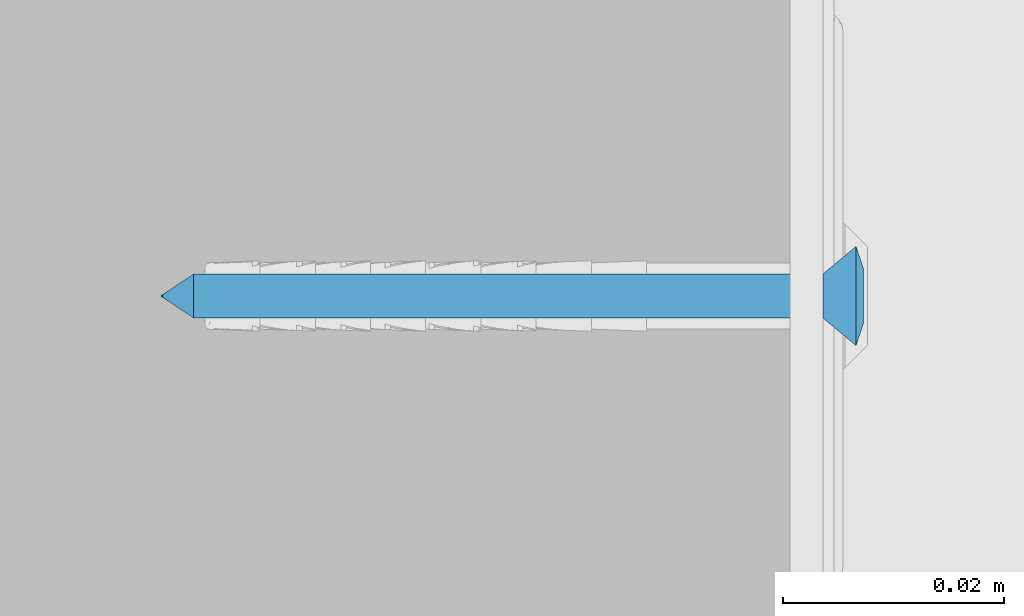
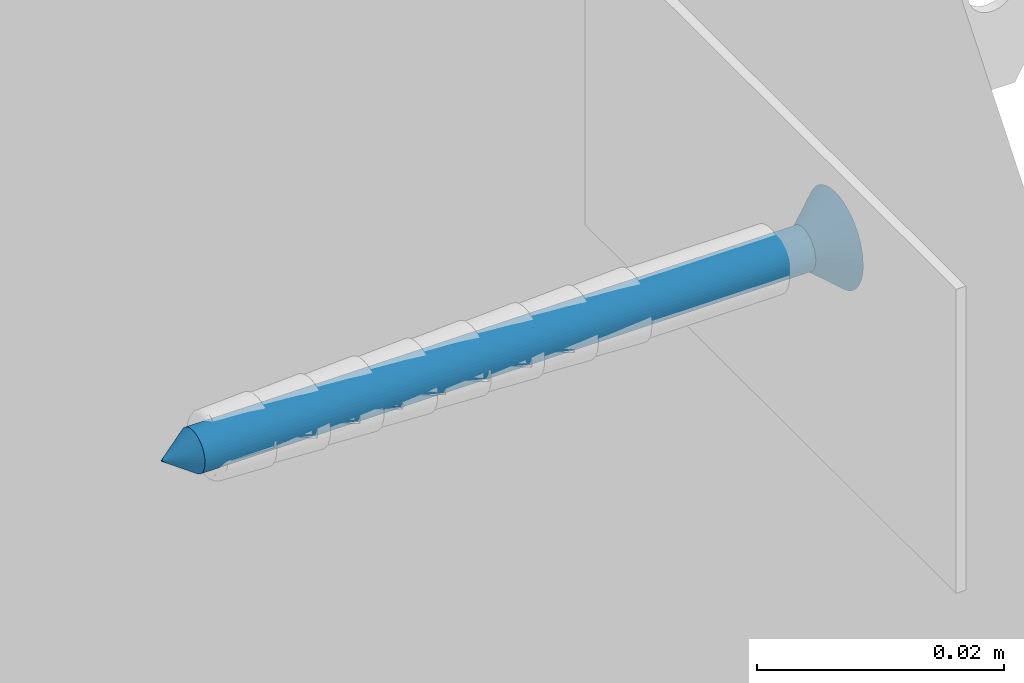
# One storey, part 42 of 61: 1 wall.
"""IFC2X3 building model written with IfcOpenShell, lengths in millimetres."""

from ifc_helpers import new_model, si_unit, frame, origin_with_axes, place, context, subcontext, project, spatial, faceted_brep, material, type_object, element, save


model = new_model("IFC2X3")

# Units and contexts
model_context = context("Model", 3, world=origin_with_axes())
body_context = subcontext(model_context, "Body", "Model", "MODEL_VIEW")
ifc_project = project(units=[si_unit("LENGTHUNIT", "METRE", prefix="MILLI"), si_unit("AREAUNIT", "SQUARE_METRE"), si_unit("VOLUMEUNIT", "CUBIC_METRE")], contexts=[model_context])

# Site, building, storey
site_placement = place(None, frame((2152.1410261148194, -2015.0250894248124, 57.61556563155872), z_axis=(0.0, 0.0, 1.0), x_axis=(-1.1102230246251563e-16, 1.0, 0.0)))
site = spatial("IfcSite", under=ifc_project, at=site_placement, Name="Default Site", CompositionType="ELEMENT")
building_placement = place(site_placement, origin_with_axes())
building = spatial("IfcBuilding", under=site, at=building_placement, Name="Default Building", CompositionType="ELEMENT")
storey_placement = place(building_placement, origin_with_axes())
storey = spatial("IfcBuildingStorey", under=building, at=storey_placement, Name="Default Building Storey", CompositionType="ELEMENT", Elevation=57.61556563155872)

# Wall
ifc_material = material(Name="Default")
wall_type = type_object("IfcWallType", Name="Kołek rozporowy min. fi 6#13", PredefinedType="NOTDEFINED")
wall_placement = place(storey_placement, frame((6291.176283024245, 2016.3286110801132, 3824.5989051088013), z_axis=(-6.858158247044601e-13, -1.0, 7.64238051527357e-14), x_axis=(-1.6476028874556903e-11, 7.642380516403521e-14, 1.0)))
element("IfcWall", 1, at=wall_placement, inside=storey, type_object=wall_type, material=ifc_material, Name="Kołek rozporowy min. fi 6", context=body_context, shape_type="Brep", body=[
    faceted_brep([(-1438.3141994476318, 3453.2833099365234, -0.46425670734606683), (-1435.8141422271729, 3453.2833099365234, -3.464256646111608), (-1435.7895851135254, 3452.970266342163, -3.464256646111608), (-1438.2587671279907, 3452.579259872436, -0.46425670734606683), (-1435.7162714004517, 3452.6650905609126, -3.464256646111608), (-1438.093900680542, 3451.892614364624, -0.46425670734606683), (-1435.5961084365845, 3452.3751735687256, -3.464256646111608), (-1437.8236532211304, 3451.240301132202, -0.46425670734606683), (-1435.4321956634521, 3452.107667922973, -3.464256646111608), (-1437.4547004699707, 3450.6382942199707, -0.46425670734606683), (-1435.22834777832, 3451.8690109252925, -3.464256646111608), (-1436.9961023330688, 3450.101137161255, -0.46425670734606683), (-1434.9896907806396, 3451.665163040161, -3.464256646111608), (-1436.4591836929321, 3449.642658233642, -0.46425670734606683), (-1434.7221851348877, 3451.501131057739, -3.464256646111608), (-1435.8570575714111, 3449.2735862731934, -0.46425670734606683), (-1434.4321489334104, 3451.381206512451, -3.464256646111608), (-1435.2047443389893, 3449.0034580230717, -0.46425670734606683), (-1434.1269731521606, 3451.307773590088, -3.464256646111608), (-1434.5180988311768, 3448.838710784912, -0.46425670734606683), (-1433.8141679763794, 3451.28321647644, -3.464256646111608), (-1433.8141679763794, 3448.7831592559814, -0.46425670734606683), (-1433.5012435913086, 3451.307773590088, -3.464256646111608), (-1433.110237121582, 3448.838710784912, -0.46425670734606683), (-1433.1960678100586, 3451.381206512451, -3.464256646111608), (-1432.4235916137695, 3449.0034580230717, -0.46425670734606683), (-1432.9061508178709, 3451.501131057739, -3.464256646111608), (-1431.771159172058, 3449.2735862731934, -0.46425670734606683), (-1432.6385259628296, 3451.665163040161, -3.464256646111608), (-1431.1691522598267, 3449.642658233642, -0.46425670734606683), (-1432.3999881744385, 3451.8690109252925, -3.464256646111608), (-1430.6321144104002, 3450.101137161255, -0.46425670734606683), (-1432.1961402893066, 3452.107667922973, -3.464256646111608), (-1430.1735162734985, 3450.6382942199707, -0.46425670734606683), (-1432.0321083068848, 3452.3751735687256, -3.464256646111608), (-1429.8045635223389, 3451.240301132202, -0.46425670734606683), (-1431.9120645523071, 3452.6650905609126, -3.464256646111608), (-1429.5344352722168, 3451.892614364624, -0.46425670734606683), (-1431.8387508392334, 3453.5961151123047, -3.464256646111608), (-1429.369568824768, 3453.9871215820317, -0.46425670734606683), (-1429.314136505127, 3453.2833099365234, -0.46425670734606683), (-1431.814193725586, 3453.2833099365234, -3.464256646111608), (-1429.369568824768, 3452.579259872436, -0.46425670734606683), (-1431.8387508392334, 3452.970266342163, -3.464256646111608), (-1431.9120645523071, 3453.9012908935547, -3.464256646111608), (-1429.5344352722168, 3454.6737670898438, -0.46425670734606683), (-1432.0321083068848, 3454.191207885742, -3.464256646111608), (-1429.8045635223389, 3455.3260803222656, -0.46425670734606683), (-1432.1961402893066, 3454.458713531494, -3.464256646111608), (-1430.1735162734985, 3455.9283256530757, -0.46425670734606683), (-1432.3999881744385, 3454.6973705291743, -3.464256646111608), (-1430.6321144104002, 3456.465244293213, -0.46425670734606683), (-1432.6385259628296, 3454.9012184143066, -3.464256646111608), (-1431.1691522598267, 3456.923723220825, -0.46425670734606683), (-1432.9061508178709, 3455.065250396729, -3.464256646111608), (-1431.771159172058, 3457.2927951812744, -0.46425670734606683), (-1433.1960678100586, 3455.1854133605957, -3.464256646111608), (-1432.4235916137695, 3457.562923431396, -0.46425670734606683), (-1433.5012435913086, 3455.25860786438, -3.464256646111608), (-1433.110237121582, 3457.7279090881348, -0.46425670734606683), (-1433.8141679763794, 3455.283164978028, -3.464256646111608), (-1433.8141679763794, 3457.7832221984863, -0.46425670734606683), (-1434.3430995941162, 3457.7519893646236, -0.46425670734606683), (-1434.1269731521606, 3455.25860786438, -3.464256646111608), (-1434.4321489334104, 3455.1854133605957, -3.464256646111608), (-1434.8646402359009, 3457.6590061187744, -0.46425670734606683), (-1435.3716373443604, 3457.504987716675, -0.46425670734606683), (-1434.7221851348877, 3455.065250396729, -3.464256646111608), (-1435.8570575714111, 3457.2927951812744, -0.46425670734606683), (-1434.9896907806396, 3454.9012184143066, -3.464256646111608), (-1435.22834777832, 3454.6973705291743, -3.464256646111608), (-1436.3142251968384, 3457.024812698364, -0.46425670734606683), (-1436.7367029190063, 3456.705093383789, -0.46425670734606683), (-1437.118649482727, 3456.337928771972, -0.46425670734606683), (-1437.4547004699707, 3455.9283256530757, -0.46425670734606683), (-1435.4321956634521, 3454.458713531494, -3.464256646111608), (-1435.5961084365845, 3454.191207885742, -3.464256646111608), (-1437.8236532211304, 3455.3260803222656, -0.46425670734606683), (-1435.7162714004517, 3453.9012908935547, -3.464256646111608), (-1438.093900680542, 3454.6737670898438, -0.46425670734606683), (-1435.7895851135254, 3453.5961151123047, -3.464256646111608), (-1438.2587671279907, 3453.9871215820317, -0.46425670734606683), (-1434.2052936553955, 3455.752372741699, 0.20073754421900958), (-1433.8141679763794, 3455.7831287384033, 0.20073754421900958), (-1434.5866441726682, 3455.6608200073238, 0.20073754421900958), (-1434.9491596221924, 3455.510854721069, 0.20073754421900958), (-1435.2836608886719, 3455.305814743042, 0.20073754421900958), (-1435.581922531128, 3455.0509452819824, 0.20073754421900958), (-1435.836672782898, 3454.7526836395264, 0.20073754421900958), (-1436.0417127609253, 3454.418182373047, 0.20073754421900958), (-1436.1917972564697, 3454.0557861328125, 0.20073754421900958), (-1436.2833499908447, 3453.6743164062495, 0.20073754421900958), (-1436.3141059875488, 3453.2833099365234, 0.20073754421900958), (-1436.2833499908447, 3452.8920650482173, 0.20073754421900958), (-1436.1917972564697, 3452.5105953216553, 0.20073754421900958), (-1436.0417127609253, 3452.148199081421, 0.20073754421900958), (-1435.836672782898, 3451.8136978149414, 0.20073754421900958), (-1435.581922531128, 3451.5154361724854, 0.20073754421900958), (-1435.2836608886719, 3451.260566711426, 0.20073754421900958), (-1434.9491596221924, 3451.0557651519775, 0.20073754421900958), (-1434.5866441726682, 3450.905561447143, 0.20073754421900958), (-1433.4230422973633, 3450.8140087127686, 0.20073754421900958), (-1433.8141679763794, 3450.7832527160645, 0.20073754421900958), (-1434.2052936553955, 3450.8140087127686, 0.20073754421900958), (-1433.0415725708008, 3450.905561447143, 0.20073754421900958), (-1432.6791763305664, 3451.0557651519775, 0.20073754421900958), (-1432.344675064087, 3451.260566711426, 0.20073754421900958), (-1432.0464134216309, 3451.5154361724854, 0.20073754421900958), (-1431.7916631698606, 3451.8136978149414, 0.20073754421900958), (-1431.5866231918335, 3452.148199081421, 0.20073754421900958), (-1431.436538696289, 3452.5105953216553, 0.20073754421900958), (-1431.344985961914, 3452.8920650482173, 0.20073754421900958), (-1431.3141107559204, 3453.2833099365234, 0.20073754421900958), (-1431.344985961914, 3453.6743164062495, 0.20073754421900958), (-1431.436538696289, 3454.0557861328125, 0.20073754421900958), (-1431.5866231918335, 3454.418182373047, 0.20073754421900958), (-1431.7916631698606, 3454.7526836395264, 0.20073754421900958), (-1432.0464134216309, 3455.0509452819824, 0.20073754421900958), (-1432.344675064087, 3455.305814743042, 0.20073754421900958), (-1432.6791763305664, 3455.510854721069, 0.20073754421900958), (-1433.0415725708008, 3455.6608200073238, 0.20073754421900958), (-1433.4230422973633, 3455.752372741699, 0.20073754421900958), (-1433.8141679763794, 3453.2833099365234, -63.46425414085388), (-1435.7895851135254, 3452.970266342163, -60.464255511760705), (-1435.8141422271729, 3453.2833099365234, -60.464255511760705), (-1435.7162714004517, 3452.6650905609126, -60.464255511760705), (-1435.5961084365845, 3452.3751735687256, -60.464255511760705), (-1435.4321956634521, 3452.107667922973, -60.464255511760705), (-1435.22834777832, 3451.8690109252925, -60.464255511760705), (-1434.9896907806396, 3451.665163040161, -60.464255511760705), (-1434.7221851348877, 3451.501131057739, -60.464255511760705), (-1434.4321489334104, 3451.381206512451, -60.464255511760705), (-1434.1269731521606, 3451.307773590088, -60.464255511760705), (-1433.8141679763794, 3451.28321647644, -60.464255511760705), (-1433.5012435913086, 3451.307773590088, -60.464255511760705), (-1433.1960678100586, 3451.381206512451, -60.464255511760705), (-1432.9061508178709, 3451.501131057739, -60.464255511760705), (-1432.6385259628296, 3451.665163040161, -60.464255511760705), (-1432.3999881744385, 3451.8690109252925, -60.464255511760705), (-1432.1961402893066, 3452.107667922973, -60.464255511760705), (-1432.0321083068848, 3452.3751735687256, -60.464255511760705), (-1431.9120645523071, 3452.6650905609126, -60.464255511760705), (-1431.8387508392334, 3452.970266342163, -60.464255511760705), (-1431.814193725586, 3453.2833099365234, -60.464255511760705), (-1431.8387508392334, 3453.5961151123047, -60.464255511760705), (-1431.9120645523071, 3453.9012908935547, -60.464255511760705), (-1432.0321083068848, 3454.191207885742, -60.464255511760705), (-1432.1961402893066, 3454.458713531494, -60.464255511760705), (-1432.3999881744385, 3454.6973705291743, -60.464255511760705), (-1432.6385259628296, 3454.9012184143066, -60.464255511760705), (-1432.9061508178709, 3455.065250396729, -60.464255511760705), (-1433.1960678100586, 3455.1854133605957, -60.464255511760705), (-1433.5012435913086, 3455.25860786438, -60.464255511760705), (-1433.8141679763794, 3455.283164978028, -60.464255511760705), (-1434.1269731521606, 3455.25860786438, -60.464255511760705), (-1434.4321489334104, 3455.1854133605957, -60.464255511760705), (-1434.7221851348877, 3455.065250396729, -60.464255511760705), (-1434.9896907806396, 3454.9012184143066, -60.464255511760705), (-1435.22834777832, 3454.6973705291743, -60.464255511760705), (-1435.4321956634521, 3454.458713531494, -60.464255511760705), (-1435.5961084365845, 3454.191207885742, -60.464255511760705), (-1435.7162714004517, 3453.9012908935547, -60.464255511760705), (-1435.7895851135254, 3453.5961151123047, -60.464255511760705), (-1436.0417127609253, 3454.418182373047, 0.049999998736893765), (-1436.1917972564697, 3454.0557861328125, 0.049999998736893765), (-1436.2833499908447, 3453.6743164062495, 0.049999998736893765), (-1436.3141059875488, 3453.2833099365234, 0.049999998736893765), (-1436.2833499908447, 3452.8920650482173, 0.049999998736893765), (-1436.1917972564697, 3452.5105953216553, 0.049999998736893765), (-1436.0417127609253, 3452.148199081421, 0.049999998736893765), (-1435.836672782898, 3451.8136978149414, 0.049999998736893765), (-1435.581922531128, 3451.5154361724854, 0.049999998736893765), (-1435.2836608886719, 3451.260566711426, 0.049999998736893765), (-1434.9491596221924, 3451.0557651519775, 0.049999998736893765), (-1434.5866441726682, 3450.905561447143, 0.049999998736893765), (-1434.2052936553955, 3450.8140087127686, 0.049999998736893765), (-1433.8141679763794, 3450.7832527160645, 0.049999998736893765), (-1433.4230422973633, 3450.8140087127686, 0.049999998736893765), (-1433.0415725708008, 3450.905561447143, 0.049999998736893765), (-1432.6791763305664, 3451.0557651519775, 0.049999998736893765), (-1432.344675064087, 3451.260566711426, 0.049999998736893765), (-1432.0464134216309, 3451.5154361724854, 0.049999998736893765), (-1431.7916631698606, 3451.8136978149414, 0.049999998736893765), (-1431.5866231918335, 3452.148199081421, 0.049999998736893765), (-1431.436538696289, 3452.5105953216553, 0.049999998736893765), (-1431.344985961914, 3452.8920650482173, 0.049999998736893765), (-1431.3141107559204, 3453.2833099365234, 0.049999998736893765), (-1431.344985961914, 3453.6743164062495, 0.049999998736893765), (-1431.436538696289, 3454.0557861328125, 0.049999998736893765), (-1431.5866231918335, 3454.418182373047, 0.049999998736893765), (-1431.7916631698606, 3454.7526836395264, 0.049999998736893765), (-1432.0464134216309, 3455.0509452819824, 0.049999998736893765), (-1432.344675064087, 3455.305814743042, 0.049999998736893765), (-1432.6791763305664, 3455.510854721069, 0.049999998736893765), (-1433.0415725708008, 3455.6608200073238, 0.049999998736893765), (-1433.4230422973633, 3455.752372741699, 0.049999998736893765), (-1433.8141679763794, 3455.7831287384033, 0.049999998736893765), (-1434.2052936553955, 3455.752372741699, 0.049999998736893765), (-1434.5866441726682, 3455.6608200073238, 0.049999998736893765), (-1434.9491596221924, 3455.510854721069, 0.049999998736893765), (-1435.2836608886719, 3455.305814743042, 0.049999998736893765), (-1435.581922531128, 3455.0509452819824, 0.049999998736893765), (-1435.836672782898, 3454.7526836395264, 0.049999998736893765), (-1434.3141317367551, 3452.7831077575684, 0.049999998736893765), (-1435.8141422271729, 3452.7831077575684, 0.049999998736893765), (-1435.8141422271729, 3453.7832736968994, 0.049999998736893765), (-1434.3141317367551, 3453.7832736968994, 0.049999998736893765), (-1434.3141317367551, 3455.283164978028, 0.049999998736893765), (-1433.3142042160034, 3455.283164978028, 0.049999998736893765), (-1433.3142042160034, 3453.7832736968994, 0.049999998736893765), (-1431.814193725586, 3453.7832736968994, 0.049999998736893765), (-1431.814193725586, 3452.7831077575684, 0.049999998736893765), (-1433.3142042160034, 3452.7831077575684, 0.049999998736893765), (-1433.3142042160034, 3451.28321647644, 0.049999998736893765), (-1434.3141317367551, 3451.28321647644, 0.049999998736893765), (-1434.3141317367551, 3452.7831077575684, -1.799262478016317), (-1434.3141317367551, 3451.28321647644, -1.799262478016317), (-1433.3142042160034, 3451.28321647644, -1.799262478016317), (-1433.3142042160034, 3452.7831077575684, -1.799262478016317), (-1431.814193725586, 3452.7831077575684, -1.799262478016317), (-1431.814193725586, 3453.7832736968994, -1.799262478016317), (-1433.3142042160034, 3453.7832736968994, -1.799262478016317), (-1433.3142042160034, 3455.283164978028, -1.799262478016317), (-1434.3141317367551, 3455.283164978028, -1.799262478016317), (-1434.3141317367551, 3453.7832736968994, -1.799262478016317), (-1435.8141422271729, 3453.7832736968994, -1.799262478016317), (-1435.8141422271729, 3452.7831077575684, -1.799262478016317)], [[[0, 1, 2, 3]], [[4, 5, 3, 2]], [[6, 7, 5, 4]], [[7, 6, 8, 9]], [[10, 11, 9, 8]], [[11, 10, 12, 13]], [[14, 15, 13, 12]], [[16, 17, 15, 14]], [[17, 16, 18, 19]], [[20, 21, 19, 18]], [[21, 20, 22, 23]], [[24, 25, 23, 22]], [[26, 27, 25, 24]], [[27, 26, 28, 29]], [[30, 31, 29, 28]], [[31, 30, 32, 33]], [[34, 35, 33, 32]], [[36, 37, 35, 34]], [[38, 39, 40, 41]], [[41, 40, 42, 43]], [[37, 36, 43, 42]], [[44, 45, 39, 38]], [[46, 47, 45, 44]], [[47, 46, 48, 49]], [[50, 51, 49, 48]], [[51, 50, 52, 53]], [[54, 55, 53, 52]], [[56, 57, 55, 54]], [[57, 56, 58, 59]], [[60, 61, 59, 58]], [[62, 61, 63]], [[61, 60, 63]], [[63, 64, 62]], [[64, 65, 62]], [[66, 65, 64]], [[64, 67, 66]], [[67, 68, 66]], [[69, 70, 71]], [[70, 72, 71]], [[71, 68, 69]], [[68, 67, 69]], [[70, 73, 72]], [[74, 73, 75]], [[73, 70, 75]], [[76, 77, 74, 75]], [[78, 79, 77, 76]], [[79, 78, 80, 81]], [[1, 0, 81, 80]], [[82, 83, 62]], [[83, 61, 62]], [[62, 65, 82]], [[65, 84, 82]], [[66, 68, 84]], [[68, 85, 84]], [[84, 65, 66]], [[86, 85, 71]], [[85, 68, 71]], [[72, 73, 87]], [[87, 86, 72]], [[86, 71, 72]], [[88, 87, 74]], [[87, 73, 74]], [[77, 89, 88, 74]], [[79, 90, 89, 77]], [[90, 79, 81, 91]], [[0, 92, 91, 81]], [[92, 0, 3, 93]], [[5, 94, 93, 3]], [[7, 95, 94, 5]], [[95, 7, 9, 96]], [[11, 97, 96, 9]], [[97, 11, 13, 98]], [[15, 99, 98, 13]], [[17, 100, 99, 15]], [[23, 101, 102, 21]], [[21, 102, 103, 19]], [[100, 17, 19, 103]], [[25, 104, 101, 23]], [[27, 105, 104, 25]], [[105, 27, 29, 106]], [[31, 107, 106, 29]], [[107, 31, 33, 108]], [[35, 109, 108, 33]], [[37, 110, 109, 35]], [[110, 37, 42, 111]], [[40, 112, 111, 42]], [[112, 40, 39, 113]], [[45, 114, 113, 39]], [[47, 115, 114, 45]], [[115, 47, 49, 116]], [[51, 117, 116, 49]], [[117, 51, 53, 118]], [[55, 119, 118, 53]], [[57, 120, 119, 55]], [[120, 57, 59, 121]], [[61, 83, 121, 59]], [[122, 123, 124]], [[122, 125, 123]], [[122, 126, 125]], [[127, 126, 122]], [[122, 128, 127]], [[129, 128, 122]], [[122, 130, 129]], [[122, 131, 130]], [[132, 131, 122]], [[122, 133, 132]], [[134, 133, 122]], [[122, 135, 134]], [[122, 136, 135]], [[137, 136, 122]], [[122, 138, 137]], [[139, 138, 122]], [[122, 140, 139]], [[122, 141, 140]], [[142, 141, 122]], [[122, 143, 142]], [[144, 143, 122]], [[122, 145, 144]], [[122, 146, 145]], [[147, 146, 122]], [[122, 148, 147]], [[149, 148, 122]], [[122, 150, 149]], [[122, 151, 150]], [[152, 151, 122]], [[122, 153, 152]], [[154, 153, 122]], [[122, 155, 154]], [[122, 156, 155]], [[157, 156, 122]], [[122, 158, 157]], [[159, 158, 122]], [[122, 160, 159]], [[122, 161, 160]], [[162, 161, 122]], [[124, 162, 122]], [[1, 124, 123, 2]], [[125, 4, 2, 123]], [[126, 6, 4, 125]], [[6, 126, 127, 8]], [[128, 10, 8, 127]], [[10, 128, 129, 12]], [[130, 14, 12, 129]], [[131, 16, 14, 130]], [[16, 131, 132, 18]], [[133, 20, 18, 132]], [[20, 133, 134, 22]], [[135, 24, 22, 134]], [[136, 26, 24, 135]], [[26, 136, 137, 28]], [[138, 30, 28, 137]], [[30, 138, 139, 32]], [[140, 34, 32, 139]], [[141, 36, 34, 140]], [[144, 38, 41, 143]], [[143, 41, 43, 142]], [[36, 141, 142, 43]], [[145, 44, 38, 144]], [[146, 46, 44, 145]], [[46, 146, 147, 48]], [[148, 50, 48, 147]], [[50, 148, 149, 52]], [[150, 54, 52, 149]], [[151, 56, 54, 150]], [[56, 151, 152, 58]], [[153, 60, 58, 152]], [[60, 153, 154, 63]], [[155, 64, 63, 154]], [[156, 67, 64, 155]], [[67, 156, 157, 69]], [[158, 70, 69, 157]], [[70, 158, 159, 75]], [[160, 76, 75, 159]], [[161, 78, 76, 160]], [[78, 161, 162, 80]], [[124, 1, 80, 162]], [[163, 164, 165, 166, 167, 168, 169, 170, 171, 172, 173, 174, 175, 176, 177, 178, 179, 180, 181, 182, 183, 184, 185, 186, 187, 188, 189, 190, 191, 192, 193, 194, 195, 196, 197, 198, 199, 200, 201, 202], [203, 204, 205, 206, 207, 208, 209, 210, 211, 212, 213, 214]], [[187, 186, 112, 113]], [[113, 114, 188, 187]], [[114, 115, 189, 188]], [[190, 189, 115, 116]], [[116, 117, 191, 190]], [[192, 191, 117, 118]], [[118, 119, 193, 192]], [[119, 120, 194, 193]], [[195, 194, 120, 121]], [[121, 83, 196, 195]], [[197, 196, 83, 82]], [[82, 84, 198, 197]], [[84, 85, 199, 198]], [[200, 199, 85, 86]], [[86, 87, 201, 200]], [[202, 201, 87, 88]], [[88, 89, 163, 202]], [[89, 90, 164, 163]], [[92, 93, 167, 166]], [[91, 92, 166, 165]], [[165, 164, 90, 91]], [[93, 94, 168, 167]], [[94, 95, 169, 168]], [[170, 169, 95, 96]], [[96, 97, 171, 170]], [[172, 171, 97, 98]], [[98, 99, 173, 172]], [[99, 100, 174, 173]], [[175, 174, 100, 103]], [[103, 102, 176, 175]], [[177, 176, 102, 101]], [[101, 104, 178, 177]], [[104, 105, 179, 178]], [[180, 179, 105, 106]], [[106, 107, 181, 180]], [[182, 181, 107, 108]], [[108, 109, 183, 182]], [[109, 110, 184, 183]], [[185, 184, 110, 111]], [[111, 112, 186, 185]], [[215, 216, 217, 218, 219, 220, 221, 222, 223, 224, 225, 226]], [[216, 214, 213, 217]], [[215, 203, 214, 216]], [[226, 204, 203, 215]], [[225, 205, 204, 226]], [[224, 206, 205, 225]], [[223, 207, 206, 224]], [[222, 208, 207, 223]], [[221, 209, 208, 222]], [[220, 210, 209, 221]], [[219, 211, 210, 220]], [[218, 212, 211, 219]], [[217, 213, 212, 218]]]),
])

save(model, "model.ifc")
